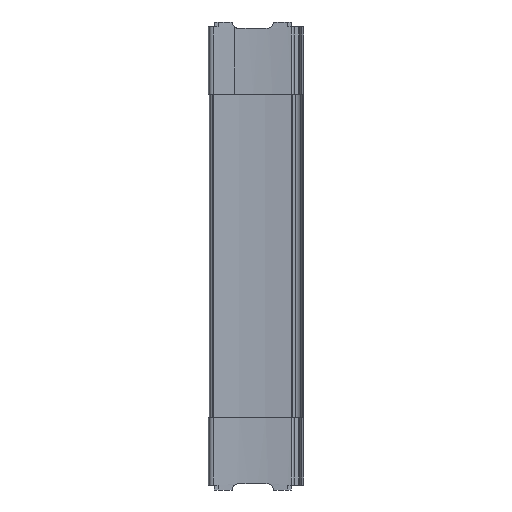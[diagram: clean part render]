
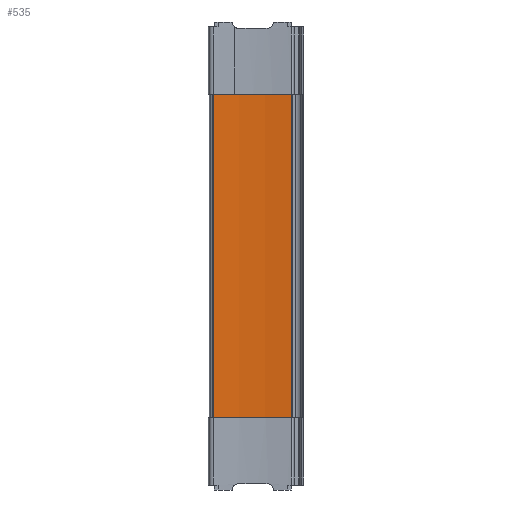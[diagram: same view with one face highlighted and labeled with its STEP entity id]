
A CAD part, left-side view. The second image highlights one B-rep face of the part: STEP entity #535.
In plain terms, the highlighted cylindrical face has radius 250 mm (diameter 500 mm), a partial arc.
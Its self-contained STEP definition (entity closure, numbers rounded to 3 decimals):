
#535 = ADVANCED_FACE ( 'NONE', ( #4050 ), #4048, .F. ) ;
#590 = EDGE_CURVE ( 'NONE', #1361, #790, #4267, .T. ) ;
#645 = EDGE_LOOP ( 'NONE', ( #2207, #2208, #2209, #2210 ) ) ;
#714 = VECTOR ( 'NONE', #4274, 1000. ) ;
#790 = VERTEX_POINT ( 'NONE', #3521 ) ;
#820 = VERTEX_POINT ( 'NONE', #3546 ) ;
#826 = VERTEX_POINT ( 'NONE', #3552 ) ;
#1014 = AXIS2_PLACEMENT_3D ( 'NONE', #4052, #4044, #4055 ) ;
#1136 = LINE ( 'NONE', #1137, #1553 ) ;
#1137 = CARTESIAN_POINT ( 'NONE',  ( -8.643, 8.331, 120.3 ) ) ;
#1141 = CARTESIAN_POINT ( 'NONE',  ( -255.319, 48.963, 114.3 ) ) ;
#1142 = DIRECTION ( 'NONE',  ( 0., 0., -1. ) ) ;
#1143 = DIRECTION ( 'NONE',  ( 1., 0., 0. ) ) ;
#1144 = DIRECTION ( 'NONE',  ( 0., 0., -1. ) ) ;
#1145 = CARTESIAN_POINT ( 'NONE',  ( -255.319, 48.963, -114.3 ) ) ;
#1146 = DIRECTION ( 'NONE',  ( 0., 0., 1. ) ) ;
#1147 = DIRECTION ( 'NONE',  ( -1., 0., 0. ) ) ;
#1361 = VERTEX_POINT ( 'NONE', #2889 ) ;
#1518 = CIRCLE ( 'NONE', #1557, 250. ) ;
#1551 = CIRCLE ( 'NONE', #1554, 250. ) ;
#1553 = VECTOR ( 'NONE', #1144, 1000. ) ;
#1554 = AXIS2_PLACEMENT_3D ( 'NONE', #1141, #1142, #1143 ) ;
#1557 = AXIS2_PLACEMENT_3D ( 'NONE', #1145, #1146, #1147 ) ;
#1898 = EDGE_CURVE ( 'NONE', #1361, #826, #1551, .T. ) ;
#1899 = EDGE_CURVE ( 'NONE', #826, #820, #1136, .T. ) ;
#1900 = EDGE_CURVE ( 'NONE', #820, #790, #1518, .T. ) ;
#2207 = ORIENTED_EDGE ( 'NONE', *, *, #1900, .F. ) ;
#2208 = ORIENTED_EDGE ( 'NONE', *, *, #1899, .F. ) ;
#2209 = ORIENTED_EDGE ( 'NONE', *, *, #1898, .F. ) ;
#2210 = ORIENTED_EDGE ( 'NONE', *, *, #590, .T. ) ;
#2889 = CARTESIAN_POINT ( 'NONE',  ( -5.747, 63.571, 114.3 ) ) ;
#3521 = CARTESIAN_POINT ( 'NONE',  ( -5.747, 63.571, -114.3 ) ) ;
#3546 = CARTESIAN_POINT ( 'NONE',  ( -8.643, 8.331, -114.3 ) ) ;
#3552 = CARTESIAN_POINT ( 'NONE',  ( -8.643, 8.331, 114.3 ) ) ;
#4044 = DIRECTION ( 'NONE',  ( 0., 0., -1. ) ) ;
#4048 = CYLINDRICAL_SURFACE ( 'NONE', #1014, 250. ) ;
#4050 = FACE_OUTER_BOUND ( 'NONE', #645, .T. ) ;
#4052 = CARTESIAN_POINT ( 'NONE',  ( -255.319, 48.963, 120.3 ) ) ;
#4055 = DIRECTION ( 'NONE',  ( -1., 0., 0. ) ) ;
#4263 = CARTESIAN_POINT ( 'NONE',  ( -5.747, 63.571, 120.3 ) ) ;
#4267 = LINE ( 'NONE', #4263, #714 ) ;
#4274 = DIRECTION ( 'NONE',  ( 0., 0., -1. ) ) ;
